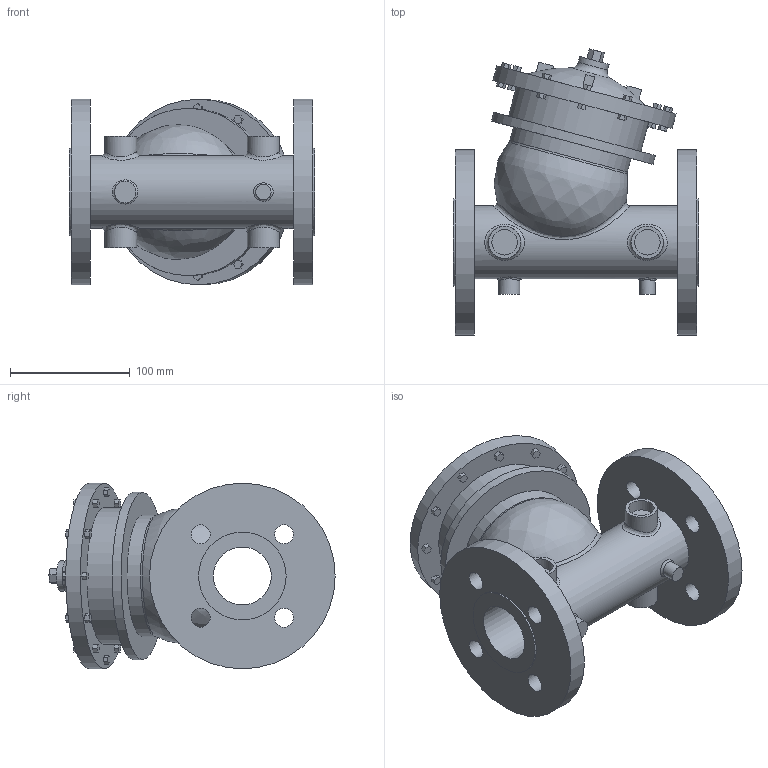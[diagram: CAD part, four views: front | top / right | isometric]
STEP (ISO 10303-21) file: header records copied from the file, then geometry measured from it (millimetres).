
FILE_DESCRIPTION(/* description */ ('VIC FP VALVE PRESSURE RELIEF SERIES 867-7UF (FLG 150)','CAx-IF Rec.Pracs.---Representation and Presentation of Product Manufacturing Information (PMI)---4.0---2014-10-13'),/* implementation_level */ '2;1');
FILE_NAME(/* name */ 'C:\Series 867-7UF\New folder (2)\step\Victaulic_FP-Bermad_Valve Pressure Relief_Series 867-7UF (FLG 150)\Victaulic_FP-Bermad_Valve Pressure Relief_Series 867-7UF (FLG 150)_1.5 (40).stp',/* time_stamp */ '2021-09-02T12:08:54+06:00',/* author */ ('kkamble'),/* organization */ ('Victaulic'),/* preprocessor_version */ 'ST-DEVELOPER v17.2',/* originating_system */ 'Autodesk Inventor 2019',/* authorisation */ '');
FILE_SCHEMA (('AP242_MANAGED_MODEL_BASED_3D_ENGINEERING_MIM_LF { 1 0 10303 442 1 1 4 }'));
Length unit declared in the file: inch
Products named in the file (1): 867-7UF-01.5
Bounding box: 204.98 x 239.02 x 154.94 mm (x, y, z)
Volume: 1992478.8 mm3; surface area: 238629.6 mm2
Topology: 1 solids, 1 shells, 256 faces, 652 edges, 443 vertices
Faces by surface type: plane 216, cylinder 29, bspline 9, torus 2
Full cylindrical faces by diameter (mm): 12.7 x1, 15.875 x8, 17.78 x1, 21.336 x4, 25.4 x1, 26.873 x4, 48.26 x1, 60.96 x1, 73.152 x2, 101.6 x1, 114.3 x1, 139.7 x1, 154.94 x3
Entity records: 9227 total; most frequent: CARTESIAN_POINT 2556, ORIENTED_EDGE 1316, DIRECTION 1227, EDGE_CURVE 658, LINE 519, VECTOR 519, VERTEX_POINT 449, AXIS2_PLACEMENT_3D 354
